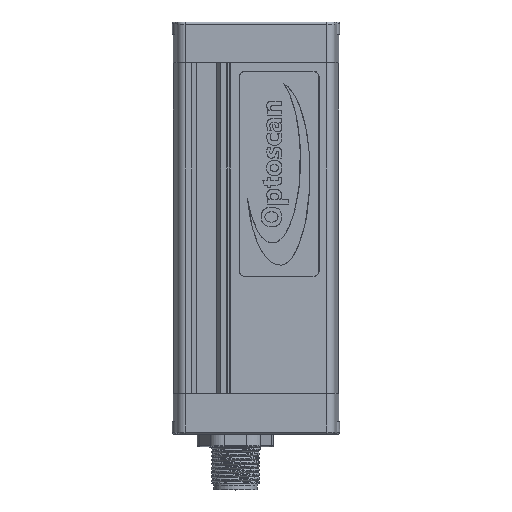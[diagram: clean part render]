
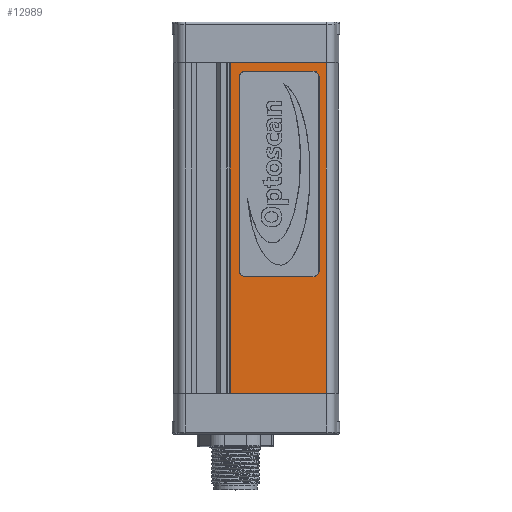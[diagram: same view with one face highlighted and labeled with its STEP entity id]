
A CAD part, top view. The second image highlights one B-rep face of the part: STEP entity #12989.
In plain terms, the highlighted planar face has unit normal (0, 0, 1).
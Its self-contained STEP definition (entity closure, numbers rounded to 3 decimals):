
#157=FACE_BOUND('',#2163,.T.);
#429=CIRCLE('',#13653,1.45);
#435=CIRCLE('',#13661,1.45);
#439=CIRCLE('',#13667,1.45);
#443=CIRCLE('',#13673,1.45);
#1007=PLANE('',#13786);
#1449=FACE_OUTER_BOUND('',#2162,.T.);
#2162=EDGE_LOOP('',(#9392,#9393,#9394,#9395));
#2163=EDGE_LOOP('',(#9396,#9397,#9398,#9399,#9400,#9401,#9402,#9403));
#3054=LINE('',#19231,#4083);
#3056=LINE('',#19243,#4085);
#3058=LINE('',#19255,#4087);
#3060=LINE('',#19264,#4089);
#3271=LINE('',#21431,#4300);
#3272=LINE('',#21433,#4301);
#3273=LINE('',#21435,#4302);
#3274=LINE('',#21436,#4303);
#4083=VECTOR('',#15218,10.);
#4085=VECTOR('',#15232,10.);
#4087=VECTOR('',#15246,10.);
#4089=VECTOR('',#15258,10.);
#4300=VECTOR('',#15693,10.);
#4301=VECTOR('',#15694,10.);
#4302=VECTOR('',#15695,10.);
#4303=VECTOR('',#15696,10.);
#5216=VERTEX_POINT('',#19219);
#5217=VERTEX_POINT('',#19221);
#5219=VERTEX_POINT('',#19227);
#5221=VERTEX_POINT('',#19233);
#5223=VERTEX_POINT('',#19239);
#5225=VERTEX_POINT('',#19245);
#5227=VERTEX_POINT('',#19251);
#5229=VERTEX_POINT('',#19257);
#5471=VERTEX_POINT('',#21429);
#5472=VERTEX_POINT('',#21430);
#5473=VERTEX_POINT('',#21432);
#5474=VERTEX_POINT('',#21434);
#6518=EDGE_CURVE('',#5216,#5217,#429,.T.);
#6523=EDGE_CURVE('',#5217,#5219,#3054,.T.);
#6526=EDGE_CURVE('',#5219,#5221,#435,.T.);
#6529=EDGE_CURVE('',#5221,#5223,#3056,.T.);
#6532=EDGE_CURVE('',#5223,#5225,#439,.T.);
#6535=EDGE_CURVE('',#5225,#5227,#3058,.T.);
#6538=EDGE_CURVE('',#5227,#5229,#443,.T.);
#6540=EDGE_CURVE('',#5229,#5216,#3060,.T.);
#6909=EDGE_CURVE('',#5471,#5472,#3271,.T.);
#6910=EDGE_CURVE('',#5472,#5473,#3272,.T.);
#6911=EDGE_CURVE('',#5474,#5473,#3273,.T.);
#6912=EDGE_CURVE('',#5471,#5474,#3274,.T.);
#9392=ORIENTED_EDGE('',*,*,#6909,.T.);
#9393=ORIENTED_EDGE('',*,*,#6910,.T.);
#9394=ORIENTED_EDGE('',*,*,#6911,.F.);
#9395=ORIENTED_EDGE('',*,*,#6912,.F.);
#9396=ORIENTED_EDGE('',*,*,#6518,.F.);
#9397=ORIENTED_EDGE('',*,*,#6540,.F.);
#9398=ORIENTED_EDGE('',*,*,#6538,.F.);
#9399=ORIENTED_EDGE('',*,*,#6535,.F.);
#9400=ORIENTED_EDGE('',*,*,#6532,.F.);
#9401=ORIENTED_EDGE('',*,*,#6529,.F.);
#9402=ORIENTED_EDGE('',*,*,#6526,.F.);
#9403=ORIENTED_EDGE('',*,*,#6523,.F.);
#12989=ADVANCED_FACE('',(#1449,#157),#1007,.T.);
#13653=AXIS2_PLACEMENT_3D('',#19222,#15207,#15208);
#13661=AXIS2_PLACEMENT_3D('',#19237,#15225,#15226);
#13667=AXIS2_PLACEMENT_3D('',#19249,#15239,#15240);
#13673=AXIS2_PLACEMENT_3D('',#19261,#15253,#15254);
#13786=AXIS2_PLACEMENT_3D('',#21428,#15691,#15692);
#15207=DIRECTION('center_axis',(0.,0.,
1.));
#15208=DIRECTION('ref_axis',(1.,0.,0.));
#15218=DIRECTION('',(1.,0.,0.));
#15225=DIRECTION('center_axis',(0.,0.,
1.));
#15226=DIRECTION('ref_axis',(1.,0.,0.));
#15232=DIRECTION('',(0.,1.,0.));
#15239=DIRECTION('center_axis',(0.,0.,
1.));
#15240=DIRECTION('ref_axis',(1.,0.,0.));
#15246=DIRECTION('',(-1.,0.,0.));
#15253=DIRECTION('center_axis',(0.,0.,
1.));
#15254=DIRECTION('ref_axis',(1.,0.,0.));
#15258=DIRECTION('',(0.,-1.,0.));
#15691=DIRECTION('center_axis',(0.,0.,
1.));
#15692=DIRECTION('ref_axis',(1.,0.,0.));
#15693=DIRECTION('',(1.,0.,0.));
#15694=DIRECTION('',(0.,1.,0.));
#15695=DIRECTION('',(1.,0.,0.));
#15696=DIRECTION('',(0.,1.,0.));
#19219=CARTESIAN_POINT('',(-42.765,29.7,28.879));
#19221=CARTESIAN_POINT('',(-41.315,28.25,28.879));
#19222=CARTESIAN_POINT('Origin',(-41.315,29.7,28.879));
#19227=CARTESIAN_POINT('',(-24.915,28.25,28.879));
#19231=CARTESIAN_POINT('',(-37.215,28.25,28.879));
#19233=CARTESIAN_POINT('',(-23.465,29.7,28.879));
#19237=CARTESIAN_POINT('Origin',(-24.915,29.7,28.879));
#19239=CARTESIAN_POINT('',(-23.465,76.5,28.879));
#19243=CARTESIAN_POINT('',(-23.465,41.4,28.879));
#19245=CARTESIAN_POINT('',(-24.915,77.95,28.879));
#19249=CARTESIAN_POINT('Origin',(-24.915,76.5,28.879));
#19251=CARTESIAN_POINT('',(-41.315,77.95,28.879));
#19255=CARTESIAN_POINT('',(-29.015,77.95,28.879));
#19257=CARTESIAN_POINT('',(-42.765,76.5,28.879));
#19261=CARTESIAN_POINT('Origin',(-41.315,76.5,28.879));
#19264=CARTESIAN_POINT('',(-42.765,64.8,28.879));
#21428=CARTESIAN_POINT('Origin',(-44.965,0.,
28.879));
#21429=CARTESIAN_POINT('',(-44.965,0.,28.879));
#21430=CARTESIAN_POINT('',(-21.664,0.,28.879));
#21431=CARTESIAN_POINT('',(-44.965,0.,28.879));
#21432=CARTESIAN_POINT('',(-21.664,80.,28.879));
#21433=CARTESIAN_POINT('',(-21.664,0.,28.879));
#21434=CARTESIAN_POINT('',(-44.965,80.,28.879));
#21435=CARTESIAN_POINT('',(-44.965,80.,28.879));
#21436=CARTESIAN_POINT('',(-44.965,0.,28.879));
